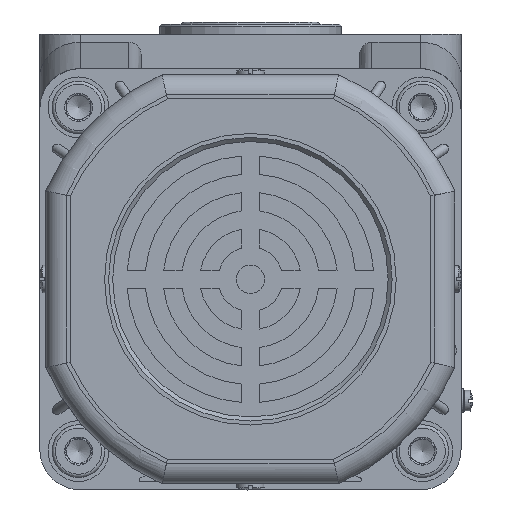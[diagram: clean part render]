
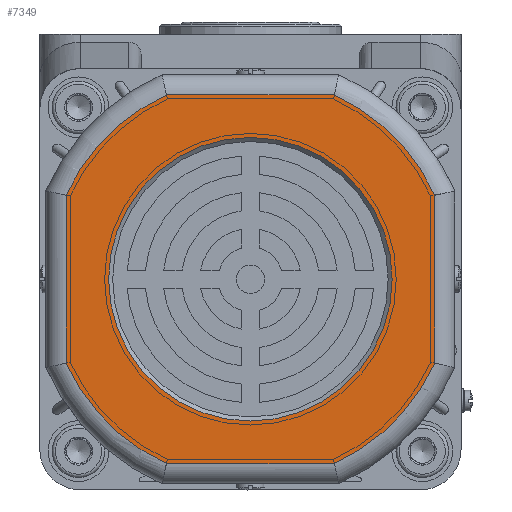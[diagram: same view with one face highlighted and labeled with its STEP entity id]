
A CAD part, left-side view. The second image highlights one B-rep face of the part: STEP entity #7349.
In plain terms, the highlighted planar face has unit normal (-1, 0, 0).
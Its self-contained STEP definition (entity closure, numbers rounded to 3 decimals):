
#1144=LINE('',#42116,#2686);
#1145=LINE('',#42132,#2687);
#1148=LINE('',#42184,#2690);
#1149=LINE('',#42200,#2691);
#2686=VECTOR('',#33647,1.);
#2687=VECTOR('',#33650,1.);
#2690=VECTOR('',#33667,1.);
#2691=VECTOR('',#33670,1.);
#4939=PLANE('',#29522);
#6202=FACE_BOUND('',#10521,.T.);
#6203=FACE_BOUND('',#10522,.T.);
#7349=ADVANCED_FACE('',(#6202,#6203),#4939,.F.);
#10521=EDGE_LOOP('',(#14434));
#10522=EDGE_LOOP('',(#14435,#14436,#14437,#14438,#14439,#14440,#14441,#14442));
#14434=ORIENTED_EDGE('',*,*,#23595,.T.);
#14435=ORIENTED_EDGE('',*,*,#23605,.T.);
#14436=ORIENTED_EDGE('',*,*,#23600,.T.);
#14437=ORIENTED_EDGE('',*,*,#23607,.T.);
#14438=ORIENTED_EDGE('',*,*,#23613,.T.);
#14439=ORIENTED_EDGE('',*,*,#23619,.T.);
#14440=ORIENTED_EDGE('',*,*,#23621,.T.);
#14441=ORIENTED_EDGE('',*,*,#23617,.T.);
#14442=ORIENTED_EDGE('',*,*,#23611,.T.);
#20576=VERTEX_POINT('',#42061);
#20581=VERTEX_POINT('',#42083);
#20582=VERTEX_POINT('',#42085);
#20584=VERTEX_POINT('',#42113);
#20587=VERTEX_POINT('',#42131);
#20588=VERTEX_POINT('',#42147);
#20591=VERTEX_POINT('',#42165);
#20592=VERTEX_POINT('',#42181);
#20595=VERTEX_POINT('',#42199);
#23595=EDGE_CURVE('',#20576,#20576,#27277,.T.);
#23600=EDGE_CURVE('',#20582,#20581,#27281,.T.);
#23605=EDGE_CURVE('',#20584,#20582,#1144,.T.);
#23607=EDGE_CURVE('',#20581,#20587,#1145,.T.);
#23611=EDGE_CURVE('',#20588,#20584,#27284,.T.);
#23613=EDGE_CURVE('',#20587,#20591,#27285,.T.);
#23617=EDGE_CURVE('',#20592,#20588,#1148,.T.);
#23619=EDGE_CURVE('',#20591,#20595,#1149,.T.);
#23621=EDGE_CURVE('',#20595,#20592,#27287,.T.);
#27277=CIRCLE('',#29260,35.);
#27281=CIRCLE('',#29266,50.);
#27284=CIRCLE('',#29272,50.);
#27285=CIRCLE('',#29274,50.);
#27287=CIRCLE('',#29279,50.);
#29260=AXIS2_PLACEMENT_3D('',#42060,#33628,#33629);
#29266=AXIS2_PLACEMENT_3D('',#42084,#33640,#33641);
#29272=AXIS2_PLACEMENT_3D('',#42150,#33656,#33657);
#29274=AXIS2_PLACEMENT_3D('',#42166,#33660,#33661);
#29279=AXIS2_PLACEMENT_3D('',#42203,#33674,#33675);
#29522=AXIS2_PLACEMENT_3D('',#42952,#34352,#34353);
#33628=DIRECTION('',(1.,0.,0.));
#33629=DIRECTION('',(0.,-1.,0.));
#33640=DIRECTION('',(-1.,0.,0.));
#33641=DIRECTION('',(0.,0.,1.));
#33647=DIRECTION('',(0.,-1.,0.));
#33650=DIRECTION('',(0.,0.,1.));
#33656=DIRECTION('',(-1.,0.,0.));
#33657=DIRECTION('',(0.,0.,1.));
#33660=DIRECTION('',(-1.,0.,0.));
#33661=DIRECTION('',(0.,0.,1.));
#33667=DIRECTION('',(0.,0.,-1.));
#33670=DIRECTION('',(0.,1.,0.));
#33674=DIRECTION('',(-1.,0.,0.));
#33675=DIRECTION('',(0.,0.,1.));
#34352=DIRECTION('',(1.,0.,0.));
#34353=DIRECTION('',(0.,0.,1.));
#42060=CARTESIAN_POINT('',(-251.8,-120.671,-58.491));
#42061=CARTESIAN_POINT('',(-251.8,-155.671,-58.491));
#42083=CARTESIAN_POINT('',(-251.8,-166.171,-79.221));
#42084=CARTESIAN_POINT('',(-251.8,-120.671,-58.491));
#42085=CARTESIAN_POINT('',(-251.8,-141.402,-103.991));
#42113=CARTESIAN_POINT('',(-251.8,-99.941,-103.991));
#42116=CARTESIAN_POINT('',(-251.8,-142.46,-103.991));
#42131=CARTESIAN_POINT('',(-251.8,-166.171,-37.76));
#42132=CARTESIAN_POINT('',(-251.8,-166.171,-36.702));
#42147=CARTESIAN_POINT('',(-251.8,-75.171,-79.221));
#42150=CARTESIAN_POINT('',(-251.8,-120.671,-58.491));
#42165=CARTESIAN_POINT('',(-251.8,-141.402,-12.991));
#42166=CARTESIAN_POINT('',(-251.8,-120.671,-58.491));
#42181=CARTESIAN_POINT('',(-251.8,-75.171,-37.76));
#42184=CARTESIAN_POINT('',(-251.8,-75.171,-80.28));
#42199=CARTESIAN_POINT('',(-251.8,-99.941,-12.991));
#42200=CARTESIAN_POINT('',(-251.8,-98.882,-12.991));
#42203=CARTESIAN_POINT('',(-251.8,-120.671,-58.491));
#42952=CARTESIAN_POINT('',(-251.8,-120.671,-58.491));
